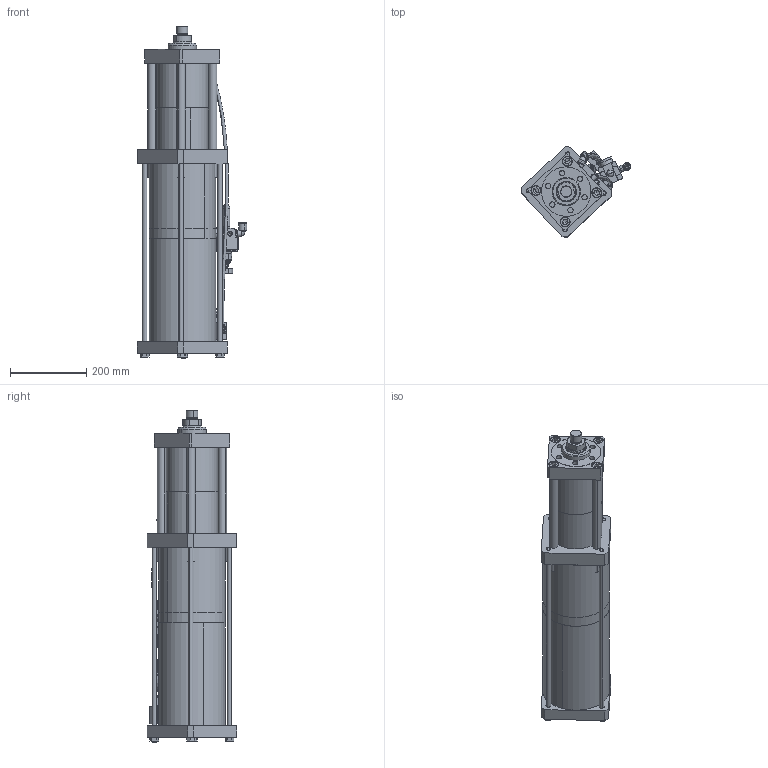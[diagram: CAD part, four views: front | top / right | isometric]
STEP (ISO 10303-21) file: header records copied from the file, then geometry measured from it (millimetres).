
FILE_DESCRIPTION (( 'STEP AP203' ), '1' );
FILE_NAME ('BS15-50-12A.step', '2025-07-31T09:40:01', ( 'Ranlm' ), ( '' ), 'SwSTEP 2.0', 'SolidWorks 2022', '' );
FILE_SCHEMA (( 'CONFIG_CONTROL_DESIGN' ));
Length unit declared in the file: millimetre
Products named in the file (1): BS15-50-12A
Bounding box: 287.6 x 236.53 x 873 mm (x, y, z)
Surface area: 861320 mm2 (no closed solid volume)
Topology: 0 solids, 71 shells, 715 faces, 2009 edges, 1349 vertices
Faces by surface type: plane 306, cylinder 250, cone 119, torus 18, bspline 18, sphere 4
Entity records: 25659 total; most frequent: CARTESIAN_POINT 7094, DIRECTION 4109, ORIENTED_EDGE 3339, EDGE_CURVE 1987, AXIS2_PLACEMENT_3D 1579, VERTEX_POINT 1345, VECTOR 951, LINE 951
